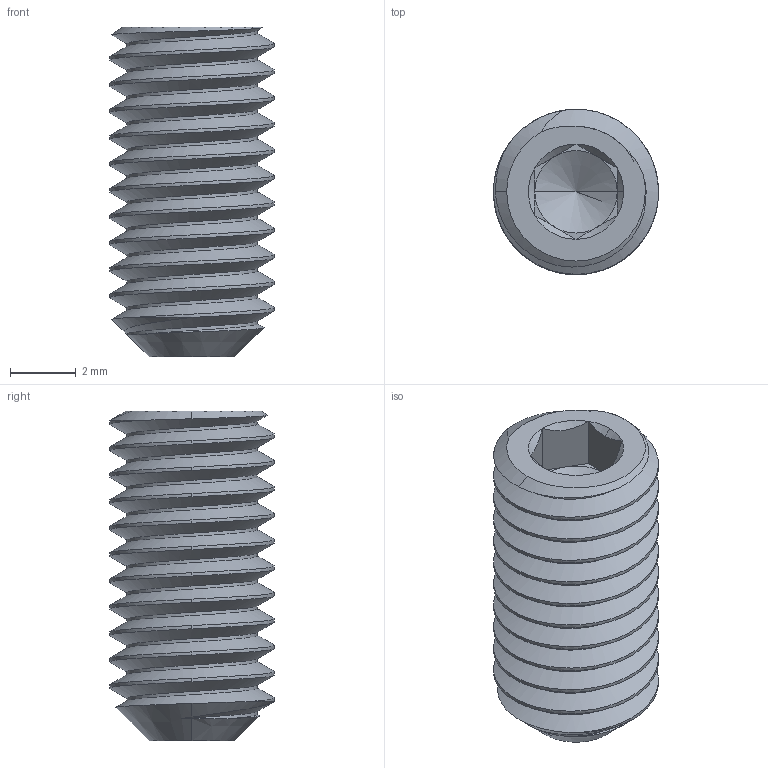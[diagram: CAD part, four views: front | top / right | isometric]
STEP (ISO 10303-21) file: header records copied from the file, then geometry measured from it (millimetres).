
FILE_DESCRIPTION (( 'STEP AP203' ), '1' );
FILE_NAME ('Cup-Point Set Screw 5x10.STEP', '2025-09-25T16:34:20', ( '' ), ( '' ), 'SwSTEP 2.0', 'SolidWorks 2024', '' );
FILE_SCHEMA (( 'CONFIG_CONTROL_DESIGN' ));
Length unit declared in the file: millimetre
Products named in the file (1): Cup-Point Set Screw 5x10
Bounding box: 5 x 5 x 10 mm (x, y, z)
Volume: 141.8 mm3; surface area: 271.3 mm2
Topology: 1 solids, 1 shells, 55 faces, 140 edges, 84 vertices
Faces by surface type: cylinder 22, cone 17, plane 13, bspline 3
Entity records: 3717 total; most frequent: CARTESIAN_POINT 2518, ORIENTED_EDGE 272, DIRECTION 195, EDGE_CURVE 136, VERTEX_POINT 84, AXIS2_PLACEMENT_3D 73, EDGE_LOOP 56, FACE_OUTER_BOUND 55
